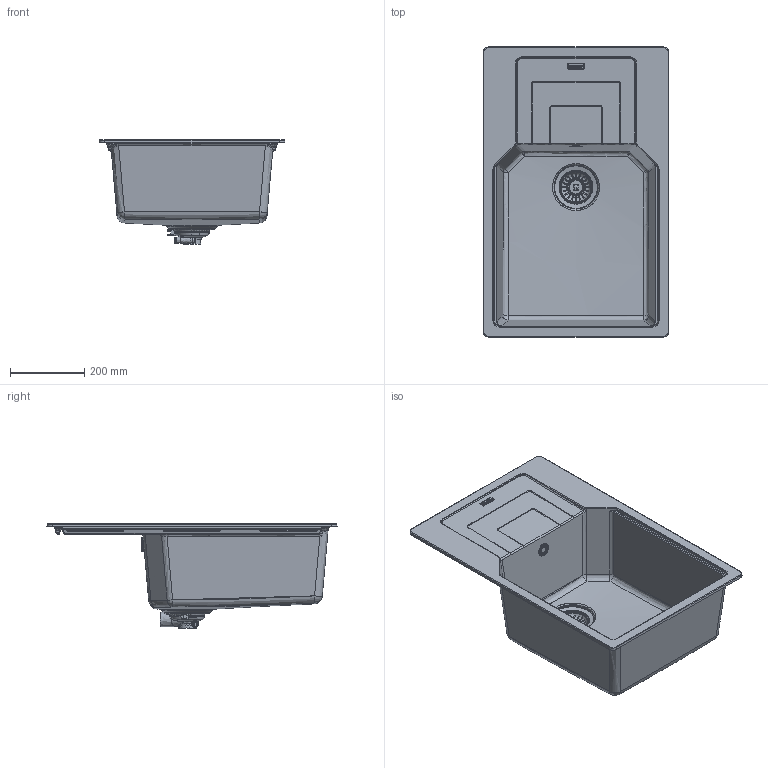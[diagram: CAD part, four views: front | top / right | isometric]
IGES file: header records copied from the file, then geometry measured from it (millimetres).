
Global section: file name: F:\_CONVERSIONE_CAD_2024_2025\_2024\03_3D kits new\Sinks\URBAN\114.0706.797 3D001_Sinks_Urban_UBG-611-78L\3D001_Sinks_Urban_UBG-611-78L.igs; native system: Rhinoceros ( May 17 2024 ); preprocessor: Trout Lake IGES 012 May 17 2024; date: 240701.084334; units: millimetre
Bounding box: 500 x 780 x 280.3 mm (x, y, z)
Surface area: 1524805.4 mm2 (no closed solid volume)
Topology: 0 solids, 0 shells, 3158 faces, 25142 edges, 25021 vertices
Faces by surface type: bspline 3158
